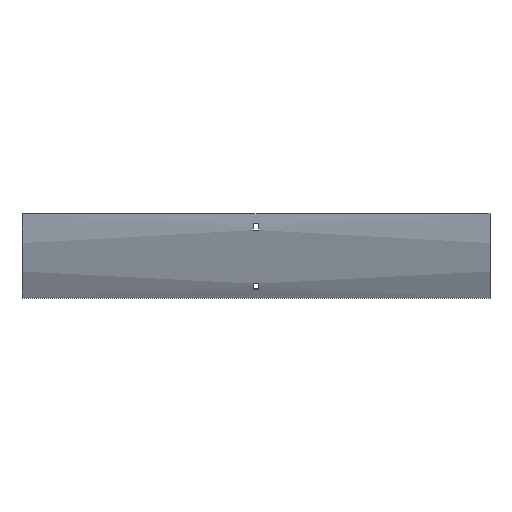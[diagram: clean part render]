
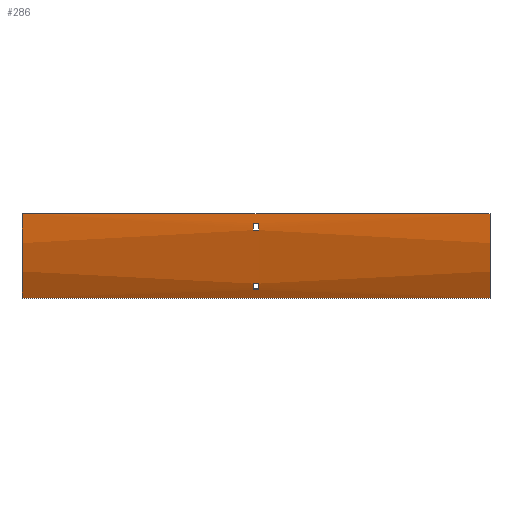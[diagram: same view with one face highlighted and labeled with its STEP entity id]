
A CAD part, front view. The second image highlights one B-rep face of the part: STEP entity #286.
In plain terms, the highlighted cylindrical face has radius 217.5 mm (diameter 435 mm), a partial arc.
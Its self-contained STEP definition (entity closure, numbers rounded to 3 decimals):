
#62 = EDGE_CURVE ( 'NONE', #273, #399, #253, .T. ) ;
#87 = CARTESIAN_POINT ( 'NONE',  ( 3.25, -117.169, -12. ) ) ;
#108 = DIRECTION ( 'NONE',  ( -1., 0., 0. ) ) ;
#155 = EDGE_CURVE ( 'NONE', #475, #1315, #613, .T. ) ;
#161 = DIRECTION ( 'NONE',  ( -1., 0., 0. ) ) ;
#173 = VERTEX_POINT ( 'NONE', #636 ) ;
#205 = EDGE_CURVE ( 'NONE', #1633, #936, #372, .T. ) ;
#210 = VERTEX_POINT ( 'NONE', #1409 ) ;
#218 = DIRECTION ( 'NONE',  ( 0., 0., 1. ) ) ;
#236 = DIRECTION ( 'NONE',  ( 0., 0., -1. ) ) ;
#239 = CARTESIAN_POINT ( 'NONE',  ( -3.25, -97.98, -90.055 ) ) ;
#253 = CIRCLE ( 'NONE', #673, 217.5 ) ;
#265 = EDGE_CURVE ( 'NONE', #210, #852, #800, .T. ) ;
#273 = VERTEX_POINT ( 'NONE', #525 ) ;
#286 = ADVANCED_FACE ( 'NONE', ( #947, #981, #1507 ), #431, .T. ) ;
#289 = LINE ( 'NONE', #817, #955 ) ;
#300 = ORIENTED_EDGE ( 'NONE', *, *, #841, .F. ) ;
#302 = AXIS2_PLACEMENT_3D ( 'NONE', #898, #523, #218 ) ;
#326 = CARTESIAN_POINT ( 'NONE',  ( 302., 100., 0. ) ) ;
#332 = ORIENTED_EDGE ( 'NONE', *, *, #265, .F. ) ;
#337 = DIRECTION ( 'NONE',  ( 0., 0., -1. ) ) ;
#343 = EDGE_CURVE ( 'NONE', #399, #1633, #289, .T. ) ;
#364 = DIRECTION ( 'NONE',  ( 1., 0., 0. ) ) ;
#372 = CIRCLE ( 'NONE', #1608, 217.5 ) ;
#391 = CARTESIAN_POINT ( 'NONE',  ( 3.25, -94.074, -98.192 ) ) ;
#392 = CIRCLE ( 'NONE', #967, 217.5 ) ;
#393 = CIRCLE ( 'NONE', #302, 217.5 ) ;
#394 = VERTEX_POINT ( 'NONE', #1136 ) ;
#399 = VERTEX_POINT ( 'NONE', #1662 ) ;
#406 = LINE ( 'NONE', #1022, #1183 ) ;
#431 = CYLINDRICAL_SURFACE ( 'NONE', #513, 217.5 ) ;
#433 = EDGE_CURVE ( 'NONE', #852, #475, #442, .T. ) ;
#439 = ORIENTED_EDGE ( 'NONE', *, *, #343, .T. ) ;
#442 = CIRCLE ( 'NONE', #1390, 217.5 ) ;
#452 = EDGE_CURVE ( 'NONE', #394, #764, #1392, .T. ) ;
#475 = VERTEX_POINT ( 'NONE', #986 ) ;
#513 = AXIS2_PLACEMENT_3D ( 'NONE', #326, #1336, #1490 ) ;
#523 = DIRECTION ( 'NONE',  ( -1., 0., 0. ) ) ;
#525 = CARTESIAN_POINT ( 'NONE',  ( -3.25, -116.484, -21. ) ) ;
#545 = CARTESIAN_POINT ( 'NONE',  ( 302., -97.98, -90.055 ) ) ;
#613 = LINE ( 'NONE', #1006, #1214 ) ;
#631 = ORIENTED_EDGE ( 'NONE', *, *, #1071, .T. ) ;
#633 = DIRECTION ( 'NONE',  ( 0., 0., -1. ) ) ;
#636 = CARTESIAN_POINT ( 'NONE',  ( 302., -117.5, 0. ) ) ;
#651 = CARTESIAN_POINT ( 'NONE',  ( -302., 100., 0. ) ) ;
#658 = DIRECTION ( 'NONE',  ( -1., 0., 0. ) ) ;
#673 = AXIS2_PLACEMENT_3D ( 'NONE', #1331, #658, #1325 ) ;
#690 = LINE ( 'NONE', #1335, #777 ) ;
#701 = DIRECTION ( 'NONE',  ( 1., 0., 0. ) ) ;
#742 = CARTESIAN_POINT ( 'NONE',  ( 3.25, 100., 0. ) ) ;
#743 = EDGE_LOOP ( 'NONE', ( #1439, #332, #1694, #1062 ) ) ;
#757 = ORIENTED_EDGE ( 'NONE', *, *, #62, .T. ) ;
#764 = VERTEX_POINT ( 'NONE', #1264 ) ;
#767 = DIRECTION ( 'NONE',  ( 0., 0., -1. ) ) ;
#777 = VECTOR ( 'NONE', #161, 1000. ) ;
#779 = VERTEX_POINT ( 'NONE', #1639 ) ;
#800 = LINE ( 'NONE', #545, #1046 ) ;
#802 = CARTESIAN_POINT ( 'NONE',  ( 3.25, -116.484, -21. ) ) ;
#817 = CARTESIAN_POINT ( 'NONE',  ( 302., -117.169, -12. ) ) ;
#833 = ORIENTED_EDGE ( 'NONE', *, *, #1001, .F. ) ;
#841 = EDGE_CURVE ( 'NONE', #779, #764, #1419, .T. ) ;
#843 = EDGE_LOOP ( 'NONE', ( #1573, #300, #833, #631 ) ) ;
#852 = VERTEX_POINT ( 'NONE', #239 ) ;
#898 = CARTESIAN_POINT ( 'NONE',  ( 3.25, 100., 0. ) ) ;
#910 = EDGE_LOOP ( 'NONE', ( #1216, #757, #439, #979 ) ) ;
#936 = VERTEX_POINT ( 'NONE', #802 ) ;
#947 = FACE_OUTER_BOUND ( 'NONE', #843, .T. ) ;
#955 = VECTOR ( 'NONE', #701, 1000. ) ;
#967 = AXIS2_PLACEMENT_3D ( 'NONE', #1237, #1112, #337 ) ;
#979 = ORIENTED_EDGE ( 'NONE', *, *, #205, .T. ) ;
#981 = FACE_BOUND ( 'NONE', #910, .T. ) ;
#986 = CARTESIAN_POINT ( 'NONE',  ( -3.25, -94.074, -98.192 ) ) ;
#1001 = EDGE_CURVE ( 'NONE', #173, #779, #392, .T. ) ;
#1006 = CARTESIAN_POINT ( 'NONE',  ( 302., -94.074, -98.192 ) ) ;
#1022 = CARTESIAN_POINT ( 'NONE',  ( 302., -117.5, 0. ) ) ;
#1029 = EDGE_CURVE ( 'NONE', #1315, #210, #393, .T. ) ;
#1046 = VECTOR ( 'NONE', #1051, 1000. ) ;
#1051 = DIRECTION ( 'NONE',  ( -1., 0., 0. ) ) ;
#1062 = ORIENTED_EDGE ( 'NONE', *, *, #155, .F. ) ;
#1071 = EDGE_CURVE ( 'NONE', #173, #394, #406, .T. ) ;
#1112 = DIRECTION ( 'NONE',  ( 1., 0., 0. ) ) ;
#1113 = EDGE_CURVE ( 'NONE', #936, #273, #690, .T. ) ;
#1125 = VECTOR ( 'NONE', #1440, 1000. ) ;
#1136 = CARTESIAN_POINT ( 'NONE',  ( -302., -117.5, 0. ) ) ;
#1177 = CARTESIAN_POINT ( 'NONE',  ( 302., -88.361, -108.75 ) ) ;
#1183 = VECTOR ( 'NONE', #108, 1000. ) ;
#1214 = VECTOR ( 'NONE', #1551, 1000. ) ;
#1216 = ORIENTED_EDGE ( 'NONE', *, *, #1113, .T. ) ;
#1237 = CARTESIAN_POINT ( 'NONE',  ( 302., 100., 0. ) ) ;
#1262 = DIRECTION ( 'NONE',  ( 1., 0., 0. ) ) ;
#1264 = CARTESIAN_POINT ( 'NONE',  ( -302., -88.361, -108.75 ) ) ;
#1315 = VERTEX_POINT ( 'NONE', #391 ) ;
#1325 = DIRECTION ( 'NONE',  ( 0., 0., 1. ) ) ;
#1331 = CARTESIAN_POINT ( 'NONE',  ( -3.25, 100., 0. ) ) ;
#1335 = CARTESIAN_POINT ( 'NONE',  ( 302., -116.484, -21. ) ) ;
#1336 = DIRECTION ( 'NONE',  ( -1., 0., 0. ) ) ;
#1390 = AXIS2_PLACEMENT_3D ( 'NONE', #1672, #1416, #236 ) ;
#1392 = CIRCLE ( 'NONE', #1476, 217.5 ) ;
#1409 = CARTESIAN_POINT ( 'NONE',  ( 3.25, -97.98, -90.055 ) ) ;
#1416 = DIRECTION ( 'NONE',  ( 1., 0., 0. ) ) ;
#1419 = LINE ( 'NONE', #1177, #1125 ) ;
#1439 = ORIENTED_EDGE ( 'NONE', *, *, #433, .F. ) ;
#1440 = DIRECTION ( 'NONE',  ( -1., 0., 0. ) ) ;
#1476 = AXIS2_PLACEMENT_3D ( 'NONE', #651, #364, #633 ) ;
#1490 = DIRECTION ( 'NONE',  ( 0., 0., 1. ) ) ;
#1507 = FACE_BOUND ( 'NONE', #743, .T. ) ;
#1551 = DIRECTION ( 'NONE',  ( 1., 0., 0. ) ) ;
#1573 = ORIENTED_EDGE ( 'NONE', *, *, #452, .T. ) ;
#1608 = AXIS2_PLACEMENT_3D ( 'NONE', #742, #1262, #767 ) ;
#1633 = VERTEX_POINT ( 'NONE', #87 ) ;
#1639 = CARTESIAN_POINT ( 'NONE',  ( 302., -88.361, -108.75 ) ) ;
#1662 = CARTESIAN_POINT ( 'NONE',  ( -3.25, -117.169, -12. ) ) ;
#1672 = CARTESIAN_POINT ( 'NONE',  ( -3.25, 100., 0. ) ) ;
#1694 = ORIENTED_EDGE ( 'NONE', *, *, #1029, .F. ) ;
